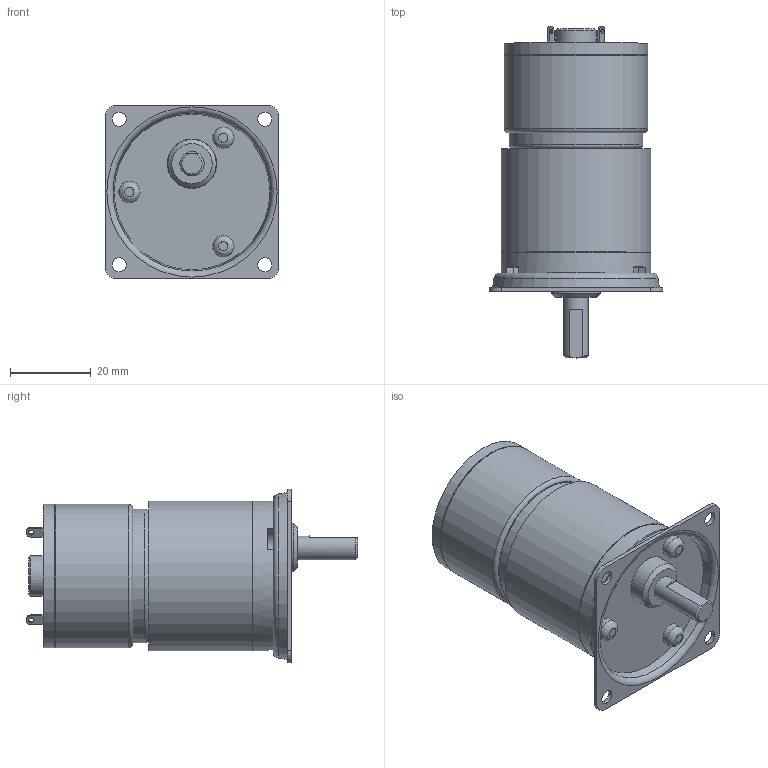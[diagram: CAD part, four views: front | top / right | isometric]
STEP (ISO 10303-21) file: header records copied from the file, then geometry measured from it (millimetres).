
FILE_DESCRIPTION((''),'2;1');
FILE_NAME('C:\Documents and Settings\SSEGAWA\デスクトップ\TP-3526A-PKS-5.STP','2013-07-09T14:42:46',('SSEGAWA'),(''),'Autodesk Inventor 2010','Autodesk Inventor 2010','');
FILE_SCHEMA(('CONFIG_CONTROL_DESIGN'));
Length unit declared in the file: millimetre
Products named in the file (5): tp_3526abcj_pks_5; pks_5; ks_5; □43; tp_3526a,b,c,j
Assembly tree (4 placements, depth 3):
  tp_3526abcj_pks_5
    pks_5
      ks_5
      □43
    tp_3526a,b,c,j
Bounding box: 43 x 82.1 x 43 mm (x, y, z)
Volume: 61449.8 mm3; surface area: 16226.4 mm2
Topology: 4 solids, 4 shells, 112 faces, 256 edges, 170 vertices
Faces by surface type: plane 47, cylinder 28, bspline 28, torus 5, cone 4
Full cylindrical faces by diameter (mm): 2 x1, 4 x1, 5.3 x3, 6 x1, 10 x2, 12 x1, 12.2 x1, 33 x1, 35 x1, 35.4 x2, 36.6 x1, 37 x2
Entity records: 3303 total; most frequent: CARTESIAN_POINT 1024, DIRECTION 465, ORIENTED_EDGE 348, AXIS2_PLACEMENT_3D 200, EDGE_LOOP 197, EDGE_CURVE 174, VERTEX_POINT 141, FACE_OUTER_BOUND 112
